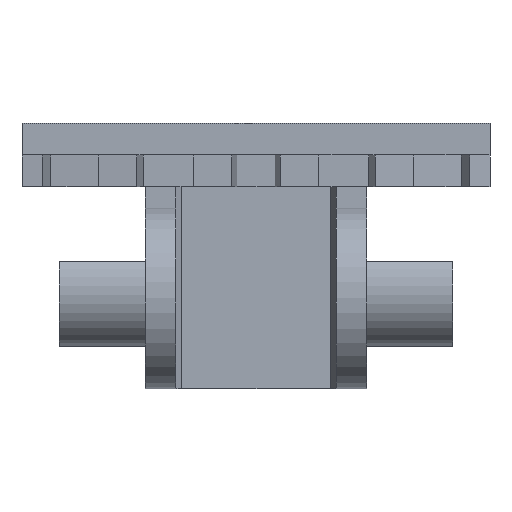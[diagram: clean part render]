
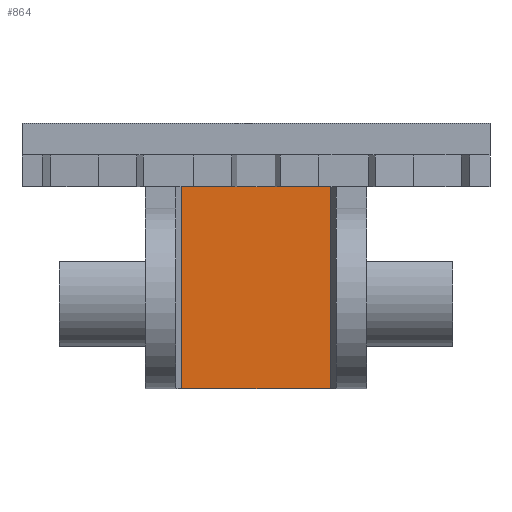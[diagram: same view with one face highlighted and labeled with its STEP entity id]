
A CAD part, left-side view. The second image highlights one B-rep face of the part: STEP entity #864.
In plain terms, the highlighted planar face has unit normal (-1, 0, 0).
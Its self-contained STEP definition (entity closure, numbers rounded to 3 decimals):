
#44 = VERTEX_POINT ( 'NONE', #1273 ) ;
#49 = VERTEX_POINT ( 'NONE', #1279 ) ;
#58 = EDGE_CURVE ( 'NONE', #49, #44, #1255, .T. ) ;
#184 = EDGE_CURVE ( 'NONE', #186, #202, #1541, .T. ) ;
#186 = VERTEX_POINT ( 'NONE', #1579 ) ;
#202 = VERTEX_POINT ( 'NONE', #1574 ) ;
#860 = EDGE_LOOP ( 'NONE', ( #867, #868, #872, #866 ) ) ;
#864 = ADVANCED_FACE ( 'NONE', ( #2584 ), #2578, .F. ) ;
#865 = EDGE_CURVE ( 'NONE', #202, #44, #2630, .T. ) ;
#866 = ORIENTED_EDGE ( 'NONE', *, *, #869, .T. ) ;
#867 = ORIENTED_EDGE ( 'NONE', *, *, #184, .T. ) ;
#868 = ORIENTED_EDGE ( 'NONE', *, *, #865, .T. ) ;
#869 = EDGE_CURVE ( 'NONE', #49, #186, #2577, .T. ) ;
#872 = ORIENTED_EDGE ( 'NONE', *, *, #58, .F. ) ;
#1252 = DIRECTION ( 'NONE',  ( 0., 1., 0. ) ) ;
#1253 = VECTOR ( 'NONE', #1252, 1000. ) ;
#1254 = CARTESIAN_POINT ( 'NONE',  ( -2.209, -7.581, 14.1 ) ) ;
#1255 = LINE ( 'NONE', #1254, #1253 ) ;
#1273 = CARTESIAN_POINT ( 'NONE',  ( -2.209, 6.969, 14.1 ) ) ;
#1279 = CARTESIAN_POINT ( 'NONE',  ( -2.209, -7.031, 14.1 ) ) ;
#1541 = LINE ( 'NONE', #1582, #1581 ) ;
#1574 = CARTESIAN_POINT ( 'NONE',  ( -2.209, 6.969, 33.1 ) ) ;
#1579 = CARTESIAN_POINT ( 'NONE',  ( -2.209, -7.031, 33.1 ) ) ;
#1580 = DIRECTION ( 'NONE',  ( 0., 1., 0. ) ) ;
#1581 = VECTOR ( 'NONE', #1580, 1000. ) ;
#1582 = CARTESIAN_POINT ( 'NONE',  ( -2.209, -7.581, 33.1 ) ) ;
#2570 = CARTESIAN_POINT ( 'NONE',  ( -2.209, -7.581, 33.1 ) ) ;
#2571 = VECTOR ( 'NONE', #2625, 1000. ) ;
#2572 = CARTESIAN_POINT ( 'NONE',  ( -2.209, 6.969, 14.1 ) ) ;
#2576 = CARTESIAN_POINT ( 'NONE',  ( -2.209, -7.031, 33.1 ) ) ;
#2577 = LINE ( 'NONE', #2576, #2571 ) ;
#2578 = PLANE ( 'NONE',  #2579 ) ;
#2579 = AXIS2_PLACEMENT_3D ( 'NONE', #2570, #2581, #2629 ) ;
#2581 = DIRECTION ( 'NONE',  ( 1., 0., 0. ) ) ;
#2584 = FACE_OUTER_BOUND ( 'NONE', #860, .T. ) ;
#2625 = DIRECTION ( 'NONE',  ( 0., 0., 1. ) ) ;
#2627 = DIRECTION ( 'NONE',  ( 0., 0., -1. ) ) ;
#2628 = VECTOR ( 'NONE', #2627, 1000. ) ;
#2629 = DIRECTION ( 'NONE',  ( 0., 0., -1. ) ) ;
#2630 = LINE ( 'NONE', #2572, #2628 ) ;
